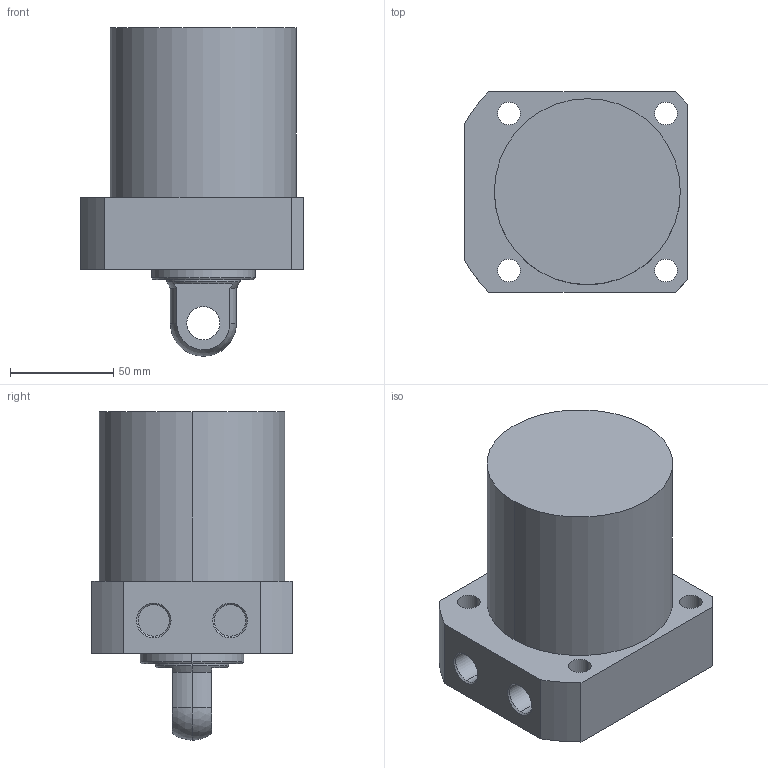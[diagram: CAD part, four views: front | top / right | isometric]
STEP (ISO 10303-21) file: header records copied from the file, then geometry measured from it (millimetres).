
FILE_DESCRIPTION (( 'STEP AP203' ), '1' );
FILE_NAME ('CLLR-090CP-060.STEP', '2019-12-19T03:24:44', ( '' ), ( '' ), 'SwSTEP 2.0', 'SolidWorks 2015', '' );
FILE_SCHEMA (( 'CONFIG_CONTROL_DESIGN' ));
Length unit declared in the file: millimetre
Products named in the file (1): CLLR-090CP-060
Bounding box: 108 x 97 x 159 mm (x, y, z)
Volume: 884133.5 mm3; surface area: 67884.5 mm2
Topology: 1 solids, 1 shells, 57 faces, 135 edges, 87 vertices
Faces by surface type: cylinder 29, plane 18, cone 8, sphere 2
Entity records: 1770 total; most frequent: DIRECTION 319, CARTESIAN_POINT 292, ORIENTED_EDGE 270, EDGE_CURVE 135, AXIS2_PLACEMENT_3D 130, VERTEX_POINT 87, EDGE_LOOP 74, CIRCLE 72
